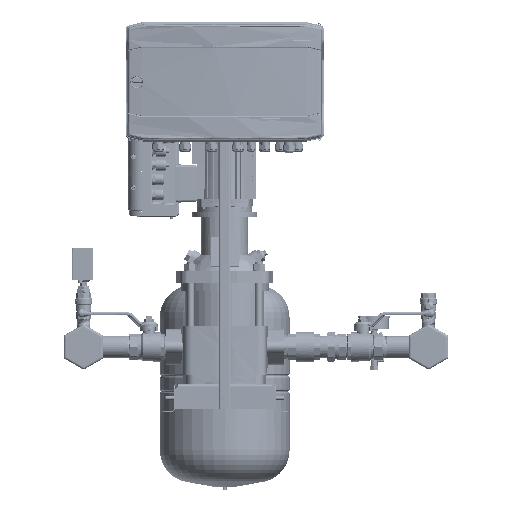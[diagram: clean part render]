
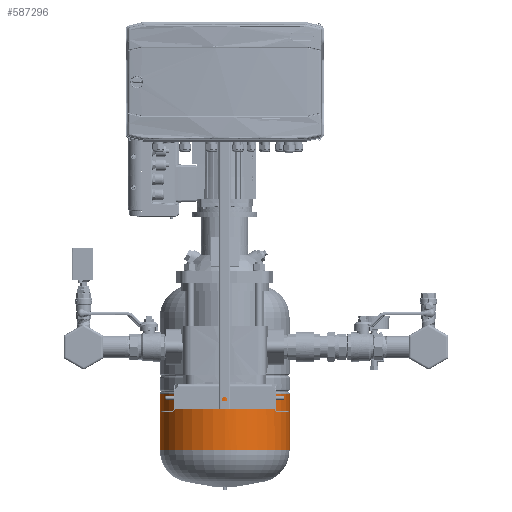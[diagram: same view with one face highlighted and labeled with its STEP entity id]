
A CAD part, left-side view. The second image highlights one B-rep face of the part: STEP entity #587296.
In plain terms, the highlighted cylindrical face has radius 140 mm (diameter 280 mm), a partial arc.
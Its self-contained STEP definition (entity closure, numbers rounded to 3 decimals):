
#580405=CARTESIAN_POINT('Vertex',(-140.,0.,-20.533)) ;
#580408=CARTESIAN_POINT('Axis2P3D Location',(0.,0.,-20.533)) ;
#580412=CARTESIAN_POINT('Vertex',(0.,-140.,-20.533)) ;
#580467=CARTESIAN_POINT('Vertex',(0.,140.,-20.533)) ;
#580470=CARTESIAN_POINT('Axis2P3D Location',(0.,0.,-20.533)) ;
#587211=CARTESIAN_POINT('Axis2P3D Location',(0.,0.,-85.867)) ;
#587216=CARTESIAN_POINT('Line Origine',(0.,140.,-85.867)) ;
#587220=CARTESIAN_POINT('Vertex',(0.,140.,-142.492)) ;
#587223=CARTESIAN_POINT('Line Origine',(0.,-140.,-85.867)) ;
#587227=CARTESIAN_POINT('Vertex',(0.,-140.,-142.492)) ;
#587265=CARTESIAN_POINT('Control Point',(-140.,0.,-142.492)) ;
#587266=CARTESIAN_POINT('Control Point',(-140.,21.991,-142.492)) ;
#587267=CARTESIAN_POINT('Control Point',(-135.682,43.982,-142.492)) ;
#587268=CARTESIAN_POINT('Control Point',(-127.042,64.842,-142.492)) ;
#587269=CARTESIAN_POINT('Control Point',(-102.048,102.048,-142.492)) ;
#587270=CARTESIAN_POINT('Control Point',(-64.842,127.042,-142.492)) ;
#587271=CARTESIAN_POINT('Control Point',(-43.982,135.682,-142.492)) ;
#587272=CARTESIAN_POINT('Control Point',(-21.991,140.,-142.492)) ;
#587273=CARTESIAN_POINT('Control Point',(0.,140.,-142.492)) ;
#587274=CARTESIAN_POINT('Vertex',(-140.,0.,-142.492)) ;
#587278=CARTESIAN_POINT('Control Point',(0.,-140.,-142.492)) ;
#587279=CARTESIAN_POINT('Control Point',(-21.991,-140.,-142.492)) ;
#587280=CARTESIAN_POINT('Control Point',(-43.982,-135.682,-142.492)) ;
#587281=CARTESIAN_POINT('Control Point',(-64.842,-127.042,-142.492)) ;
#587282=CARTESIAN_POINT('Control Point',(-102.048,-102.048,-142.492)) ;
#587283=CARTESIAN_POINT('Control Point',(-127.042,-64.842,-142.492)) ;
#587284=CARTESIAN_POINT('Control Point',(-135.682,-43.982,-142.492)) ;
#587285=CARTESIAN_POINT('Control Point',(-140.,-21.991,-142.492)) ;
#587286=CARTESIAN_POINT('Control Point',(-140.,0.,-142.492)) ;
#587218=VECTOR('Line Direction',#587217,1.) ;
#587225=VECTOR('Line Direction',#587224,1.) ;
#580409=DIRECTION('Axis2P3D Direction',(0.,0.,-1.)) ;
#580471=DIRECTION('Axis2P3D Direction',(0.,0.,-1.)) ;
#587212=DIRECTION('Axis2P3D Direction',(0.,0.,-1.)) ;
#587213=DIRECTION('Axis2P3D XDirection',(0.,-1.,0.)) ;
#587217=DIRECTION('Vector Direction',(0.,0.,-1.)) ;
#587224=DIRECTION('Vector Direction',(0.,0.,-1.)) ;
#580410=AXIS2_PLACEMENT_3D('Circle Axis2P3D',#580408,#580409,$) ;
#580472=AXIS2_PLACEMENT_3D('Circle Axis2P3D',#580470,#580471,$) ;
#587214=AXIS2_PLACEMENT_3D('Cylinder Axis2P3D',#587211,#587212,#587213) ;
#587219=LINE('Line',#587216,#587218) ;
#587226=LINE('Line',#587223,#587225) ;
#580411=CIRCLE('generated circle',#580410,140.) ;
#580473=CIRCLE('generated circle',#580472,140.) ;
#587215=CYLINDRICAL_SURFACE('generated cylinder',#587214,140.) ;
#580414=EDGE_CURVE('',#580406,#580413,#580411,.F.) ;
#580474=EDGE_CURVE('',#580468,#580406,#580473,.F.) ;
#587222=EDGE_CURVE('',#580468,#587221,#587219,.T.) ;
#587229=EDGE_CURVE('',#587228,#580413,#587226,.F.) ;
#587276=EDGE_CURVE('',#587275,#587221,#587264,.T.) ;
#587287=EDGE_CURVE('',#587228,#587275,#587277,.T.) ;
#587289=ORIENTED_EDGE('',*,*,#587229,.T.) ;
#587290=ORIENTED_EDGE('',*,*,#580414,.F.) ;
#587291=ORIENTED_EDGE('',*,*,#580474,.F.) ;
#587292=ORIENTED_EDGE('',*,*,#587222,.T.) ;
#587293=ORIENTED_EDGE('',*,*,#587276,.F.) ;
#587294=ORIENTED_EDGE('',*,*,#587287,.F.) ;
#587288=EDGE_LOOP('',(#587289,#587290,#587291,#587292,#587293,#587294)) ;
#580406=VERTEX_POINT('',#580405) ;
#580413=VERTEX_POINT('',#580412) ;
#580468=VERTEX_POINT('',#580467) ;
#587221=VERTEX_POINT('',#587220) ;
#587228=VERTEX_POINT('',#587227) ;
#587275=VERTEX_POINT('',#587274) ;
#587296=ADVANCED_FACE('MANIFOLD_SOLID_BREP #40',(#587295),#587215,.T.) ;
#587264=B_SPLINE_CURVE_WITH_KNOTS('',5,(#587265,#587266,#587267,#587268,#587269,#587270,#587271,#587272,#587273),.UNSPECIFIED.,.F.,.U.,(6,3,6),(0.,109.956,219.911),.UNSPECIFIED.) ;
#587277=B_SPLINE_CURVE_WITH_KNOTS('',5,(#587278,#587279,#587280,#587281,#587282,#587283,#587284,#587285,#587286),.UNSPECIFIED.,.F.,.U.,(6,3,6),(-219.911,-109.956,0.),.UNSPECIFIED.) ;
#587295=FACE_OUTER_BOUND('',#587288,.T.) ;
